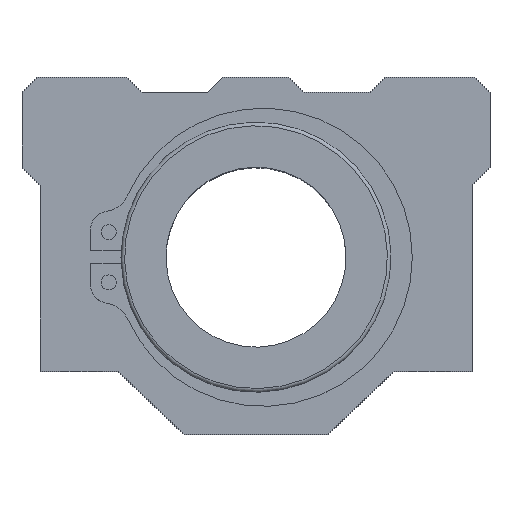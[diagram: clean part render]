
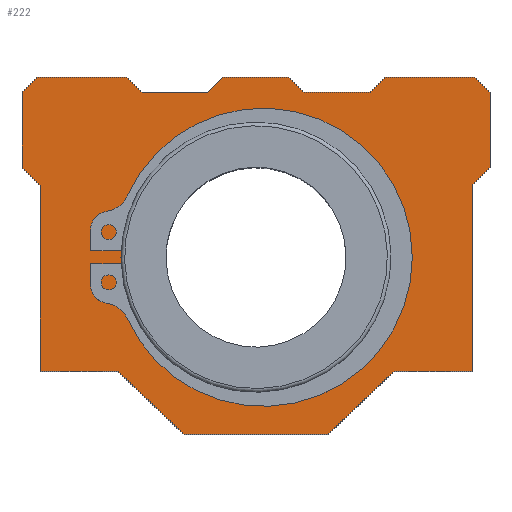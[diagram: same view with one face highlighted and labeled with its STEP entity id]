
A CAD part, top view. The second image highlights one B-rep face of the part: STEP entity #222.
In plain terms, the highlighted planar face has unit normal (0, 0, 1).
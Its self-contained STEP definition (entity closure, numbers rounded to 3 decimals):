
#222=ADVANCED_FACE('',(#298,#299),#300,.T.);
#298=FACE_OUTER_BOUND('',#477,.T.);
#299=FACE_BOUND('',#478,.T.);
#300=PLANE('',#479);
#477=EDGE_LOOP('',(#668,#669,#670,#671,#672,#673,#674,#675,#676,#677,#678,#679,#680,#681,#682,#683,#684,#685,#686,#687,#688,#689));
#478=EDGE_LOOP('',(#690));
#479=AXIS2_PLACEMENT_3D('',#691,#692,#693);
#668=ORIENTED_EDGE('',*,*,#1183,.T.);
#669=ORIENTED_EDGE('',*,*,#1184,.T.);
#670=ORIENTED_EDGE('',*,*,#1185,.T.);
#671=ORIENTED_EDGE('',*,*,#1186,.T.);
#672=ORIENTED_EDGE('',*,*,#1187,.T.);
#673=ORIENTED_EDGE('',*,*,#1188,.T.);
#674=ORIENTED_EDGE('',*,*,#1189,.T.);
#675=ORIENTED_EDGE('',*,*,#1190,.T.);
#676=ORIENTED_EDGE('',*,*,#1191,.T.);
#677=ORIENTED_EDGE('',*,*,#1192,.T.);
#678=ORIENTED_EDGE('',*,*,#1193,.T.);
#679=ORIENTED_EDGE('',*,*,#1194,.T.);
#680=ORIENTED_EDGE('',*,*,#1195,.T.);
#681=ORIENTED_EDGE('',*,*,#1196,.T.);
#682=ORIENTED_EDGE('',*,*,#1197,.T.);
#683=ORIENTED_EDGE('',*,*,#1198,.T.);
#684=ORIENTED_EDGE('',*,*,#1199,.T.);
#685=ORIENTED_EDGE('',*,*,#1200,.T.);
#686=ORIENTED_EDGE('',*,*,#1201,.T.);
#687=ORIENTED_EDGE('',*,*,#1202,.T.);
#688=ORIENTED_EDGE('',*,*,#1181,.T.);
#689=ORIENTED_EDGE('',*,*,#1176,.T.);
#690=ORIENTED_EDGE('',*,*,#1178,.T.);
#691=CARTESIAN_POINT('',(-29.0,37.5,20.45));
#692=DIRECTION('',(0.0,-0.0,1.0));
#693=DIRECTION('',(0.0,1.0,0.0));
#1176=EDGE_CURVE('',#1335,#1333,#1336,.T.);
#1178=EDGE_CURVE('',#1338,#1338,#1339,.F.);
#1181=EDGE_CURVE('',#1344,#1335,#1345,.T.);
#1183=EDGE_CURVE('',#1333,#1347,#1348,.T.);
#1184=EDGE_CURVE('',#1347,#1349,#1350,.T.);
#1185=EDGE_CURVE('',#1349,#1351,#1352,.T.);
#1186=EDGE_CURVE('',#1351,#1353,#1354,.T.);
#1187=EDGE_CURVE('',#1353,#1355,#1356,.T.);
#1188=EDGE_CURVE('',#1355,#1357,#1358,.T.);
#1189=EDGE_CURVE('',#1357,#1359,#1360,.T.);
#1190=EDGE_CURVE('',#1359,#1361,#1362,.T.);
#1191=EDGE_CURVE('',#1361,#1363,#1364,.T.);
#1192=EDGE_CURVE('',#1363,#1365,#1366,.T.);
#1193=EDGE_CURVE('',#1365,#1367,#1368,.T.);
#1194=EDGE_CURVE('',#1367,#1369,#1370,.T.);
#1195=EDGE_CURVE('',#1369,#1371,#1372,.T.);
#1196=EDGE_CURVE('',#1371,#1373,#1374,.T.);
#1197=EDGE_CURVE('',#1373,#1375,#1376,.T.);
#1198=EDGE_CURVE('',#1375,#1377,#1378,.T.);
#1199=EDGE_CURVE('',#1377,#1379,#1380,.T.);
#1200=EDGE_CURVE('',#1379,#1381,#1382,.T.);
#1201=EDGE_CURVE('',#1381,#1383,#1384,.T.);
#1202=EDGE_CURVE('',#1383,#1344,#1385,.T.);
#1333=VERTEX_POINT('',#1604);
#1335=VERTEX_POINT('',#1607);
#1336=LINE('',#1608,#1609);
#1338=VERTEX_POINT('',#1612);
#1339=CIRCLE('',#1613,22.5);
#1344=VERTEX_POINT('',#1619);
#1345=LINE('',#1620,#1621);
#1347=VERTEX_POINT('',#1624);
#1348=LINE('',#1625,#1626);
#1349=VERTEX_POINT('',#1627);
#1350=LINE('',#1628,#1629);
#1351=VERTEX_POINT('',#1630);
#1352=LINE('',#1631,#1632);
#1353=VERTEX_POINT('',#1633);
#1354=LINE('',#1634,#1635);
#1355=VERTEX_POINT('',#1636);
#1356=LINE('',#1637,#1638);
#1357=VERTEX_POINT('',#1639);
#1358=LINE('',#1640,#1641);
#1359=VERTEX_POINT('',#1642);
#1360=LINE('',#1643,#1644);
#1361=VERTEX_POINT('',#1645);
#1362=LINE('',#1646,#1647);
#1363=VERTEX_POINT('',#1648);
#1364=LINE('',#1649,#1650);
#1365=VERTEX_POINT('',#1651);
#1366=LINE('',#1652,#1653);
#1367=VERTEX_POINT('',#1654);
#1368=LINE('',#1655,#1656);
#1369=VERTEX_POINT('',#1657);
#1370=LINE('',#1658,#1659);
#1371=VERTEX_POINT('',#1660);
#1372=LINE('',#1661,#1662);
#1373=VERTEX_POINT('',#1663);
#1374=LINE('',#1664,#1665);
#1375=VERTEX_POINT('',#1666);
#1376=LINE('',#1667,#1668);
#1377=VERTEX_POINT('',#1669);
#1378=LINE('',#1670,#1671);
#1379=VERTEX_POINT('',#1672);
#1380=LINE('',#1673,#1674);
#1381=VERTEX_POINT('',#1675);
#1382=LINE('',#1676,#1677);
#1383=VERTEX_POINT('',#1678);
#1384=LINE('',#1679,#1680);
#1385=LINE('',#1681,#1682);
#1604=CARTESIAN_POINT('',(-19.0,27.5,20.45));
#1607=CARTESIAN_POINT('',(-8.,27.5,20.45));
#1608=CARTESIAN_POINT('',(-8.,27.5,20.45));
#1609=VECTOR('',#1974,1.0);
#1612=CARTESIAN_POINT('',(22.5,0.,20.45));
#1613=AXIS2_PLACEMENT_3D('',#1976,#1977,#1978);
#1619=CARTESIAN_POINT('',(-5.5,30.0,20.45));
#1620=CARTESIAN_POINT('',(-5.5,30.0,20.45));
#1621=VECTOR('',#1983,1.0);
#1624=CARTESIAN_POINT('',(-21.5,30.0,20.45));
#1625=CARTESIAN_POINT('',(-19.0,27.5,20.45));
#1626=VECTOR('',#1985,1.0);
#1627=CARTESIAN_POINT('',(-36.5,30.0,20.45));
#1628=CARTESIAN_POINT('',(-21.5,30.0,20.45));
#1629=VECTOR('',#1986,1.0);
#1630=CARTESIAN_POINT('',(-39.0,27.5,20.45));
#1631=CARTESIAN_POINT('',(-36.5,30.0,20.45));
#1632=VECTOR('',#1987,1.0);
#1633=CARTESIAN_POINT('',(-39.0,15.0,20.45));
#1634=CARTESIAN_POINT('',(-39.0,27.5,20.45));
#1635=VECTOR('',#1988,1.0);
#1636=CARTESIAN_POINT('',(-36.0,12.0,20.45));
#1637=CARTESIAN_POINT('',(-39.0,15.0,20.45));
#1638=VECTOR('',#1989,1.0);
#1639=CARTESIAN_POINT('',(-36.0,-19.0,20.45));
#1640=CARTESIAN_POINT('',(-36.0,12.0,20.45));
#1641=VECTOR('',#1990,1.0);
#1642=CARTESIAN_POINT('',(-23.0,-19.0,20.45));
#1643=CARTESIAN_POINT('',(-36.0,-19.0,20.45));
#1644=VECTOR('',#1991,1.0);
#1645=CARTESIAN_POINT('',(-12.0,-29.5,20.45));
#1646=CARTESIAN_POINT('',(-23.0,-19.0,20.45));
#1647=VECTOR('',#1992,1.0);
#1648=CARTESIAN_POINT('',(12.0,-29.5,20.45));
#1649=CARTESIAN_POINT('',(-12.0,-29.5,20.45));
#1650=VECTOR('',#1993,1.0);
#1651=CARTESIAN_POINT('',(23.0,-19.0,20.45));
#1652=CARTESIAN_POINT('',(12.0,-29.5,20.45));
#1653=VECTOR('',#1994,1.0);
#1654=CARTESIAN_POINT('',(36.0,-19.0,20.45));
#1655=CARTESIAN_POINT('',(23.0,-19.0,20.45));
#1656=VECTOR('',#1995,1.0);
#1657=CARTESIAN_POINT('',(36.0,12.0,20.45));
#1658=CARTESIAN_POINT('',(36.0,-19.0,20.45));
#1659=VECTOR('',#1996,1.0);
#1660=CARTESIAN_POINT('',(39.0,15.0,20.45));
#1661=CARTESIAN_POINT('',(36.0,12.0,20.45));
#1662=VECTOR('',#1997,1.0);
#1663=CARTESIAN_POINT('',(39.0,27.5,20.45));
#1664=CARTESIAN_POINT('',(39.0,15.0,20.45));
#1665=VECTOR('',#1998,1.0);
#1666=CARTESIAN_POINT('',(36.5,30.0,20.45));
#1667=CARTESIAN_POINT('',(39.0,27.5,20.45));
#1668=VECTOR('',#1999,1.0);
#1669=CARTESIAN_POINT('',(21.5,30.0,20.45));
#1670=CARTESIAN_POINT('',(36.5,30.0,20.45));
#1671=VECTOR('',#2000,1.0);
#1672=CARTESIAN_POINT('',(19.0,27.5,20.45));
#1673=CARTESIAN_POINT('',(21.5,30.0,20.45));
#1674=VECTOR('',#2001,1.0);
#1675=CARTESIAN_POINT('',(8.0,27.5,20.45));
#1676=CARTESIAN_POINT('',(19.0,27.5,20.45));
#1677=VECTOR('',#2002,1.0);
#1678=CARTESIAN_POINT('',(5.5,30.0,20.45));
#1679=CARTESIAN_POINT('',(8.0,27.5,20.45));
#1680=VECTOR('',#2003,1.0);
#1681=CARTESIAN_POINT('',(5.5,30.0,20.45));
#1682=VECTOR('',#2004,1.0);
#1974=DIRECTION('',(-1.0,0.0,0.0));
#1976=CARTESIAN_POINT('',(0.0,0.0,20.45));
#1977=DIRECTION('',(0.0,0.0,1.0));
#1978=DIRECTION('',(1.0,0.0,0.0));
#1983=DIRECTION('',(-0.707,-0.707,0.0));
#1985=DIRECTION('',(-0.707,0.707,0.0));
#1986=DIRECTION('',(-1.0,0.0,0.0));
#1987=DIRECTION('',(-0.707,-0.707,0.0));
#1988=DIRECTION('',(0.0,-1.0,0.0));
#1989=DIRECTION('',(0.707,-0.707,0.0));
#1990=DIRECTION('',(0.0,-1.0,0.0));
#1991=DIRECTION('',(1.0,0.0,0.0));
#1992=DIRECTION('',(0.723,-0.69,0.0));
#1993=DIRECTION('',(1.0,0.0,0.0));
#1994=DIRECTION('',(0.723,0.69,0.0));
#1995=DIRECTION('',(1.0,0.0,0.0));
#1996=DIRECTION('',(0.0,1.0,0.0));
#1997=DIRECTION('',(0.707,0.707,0.0));
#1998=DIRECTION('',(0.0,1.0,0.0));
#1999=DIRECTION('',(-0.707,0.707,0.0));
#2000=DIRECTION('',(-1.0,0.0,0.0));
#2001=DIRECTION('',(-0.707,-0.707,0.0));
#2002=DIRECTION('',(-1.0,0.0,0.0));
#2003=DIRECTION('',(-0.707,0.707,0.0));
#2004=DIRECTION('',(-1.0,0.0,0.0));
